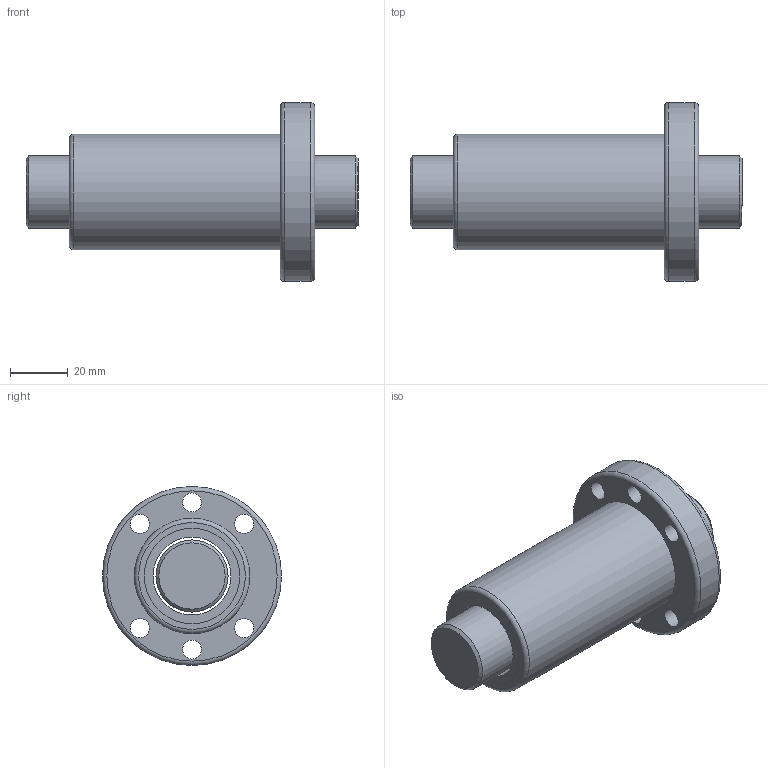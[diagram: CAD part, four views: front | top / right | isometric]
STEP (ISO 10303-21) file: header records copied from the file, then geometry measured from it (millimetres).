
FILE_DESCRIPTION(/* description */ (''),/* implementation_level */ '2;1');
FILE_NAME(/* name */ 'SFU2510',/* time_stamp */ '2007-10-26T13:28:35+08:00',/* author */ (''),/* organization */ (''),/* preprocessor_version */ 'ST-DEVELOPER v9',/* originating_system */ 'EDS PLM SOLUTIONS - UNIGRAPHICS NX 1.0',/* authorisation */ '');
FILE_SCHEMA (('CONFIG_CONTROL_DESIGN'));
Length unit declared in the file: millimetre
Products named in the file (1): FANNDA0400i5
Bounding box: 115 x 62 x 62 mm (x, y, z)
Volume: 132961.2 mm3; surface area: 37899.7 mm2
Topology: 4 solids, 4 shells, 32 faces, 64 edges, 43 vertices
Faces by surface type: cylinder 16, plane 11, torus 3, cone 2
Full cylindrical faces by diameter (mm): 6.6 x6, 25 x1, 27 x3, 33 x4, 40 x1, 62 x1
Entity records: 810 total; most frequent: DIRECTION 140, CARTESIAN_POINT 107, EDGE_LOOP 74, ORIENTED_EDGE 74, AXIS2_PLACEMENT_3D 70, FACE_BOUND 61, VERTEX_POINT 37, EDGE_CURVE 37
